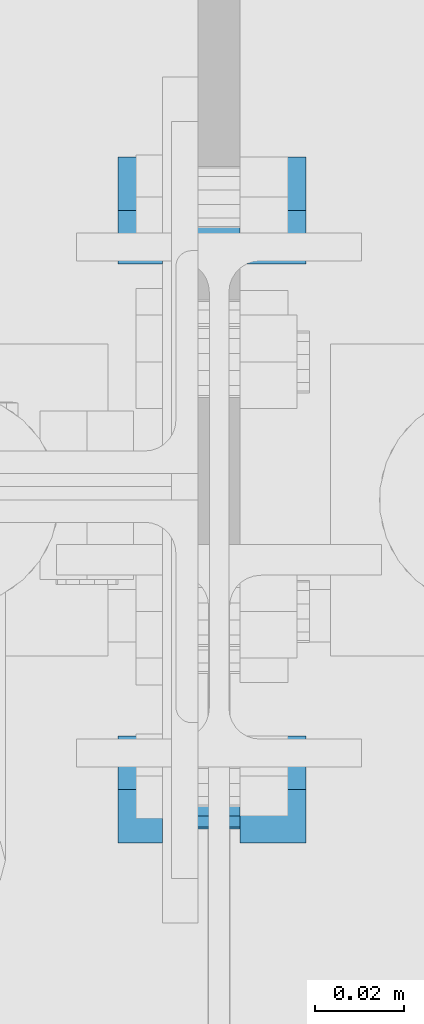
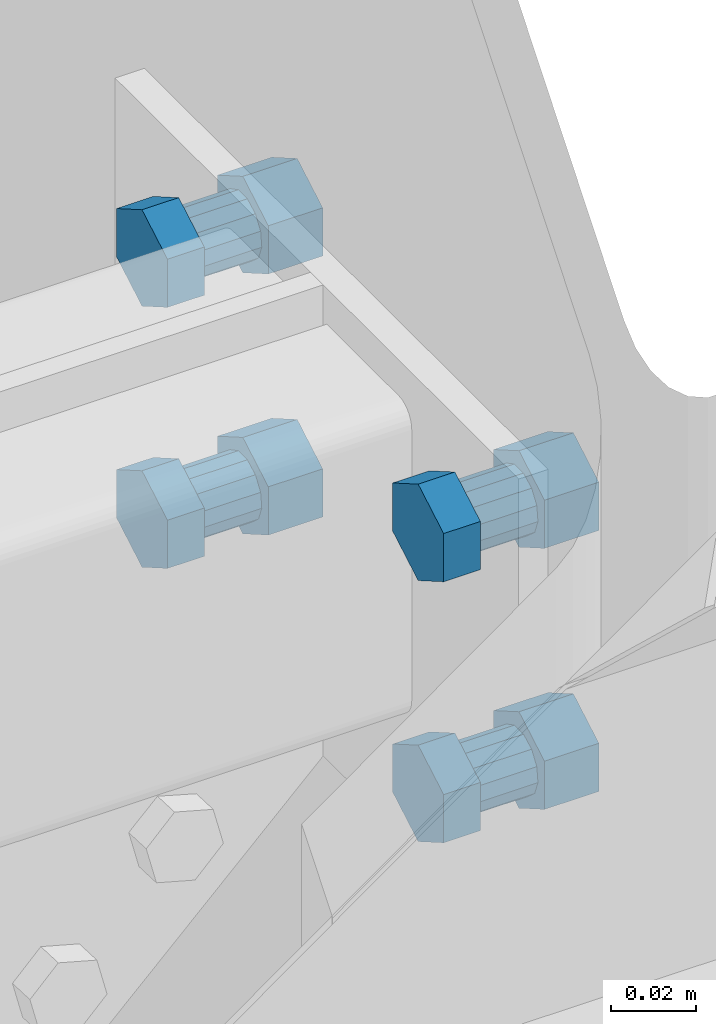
# One storey, part 6 of 18: 1 mechanical fastener.
"""IFC2X3 building model written with IfcOpenShell, lengths in millimetres."""

import ifcopenshell
import ifcopenshell.guid

model = None  # the IFC model being written
_history = None  # IfcOwnerHistory: only IFC2X3 demands one
_inside = {}  # id of a spatial element -> (the spatial element, [elements in it])
_under = {}  # id of a project, library or spatial element -> (it, [spatial elements below it])
_declared = {}  # id of a project -> (the project, [libraries it declares])
_typed = {}  # id of a type object -> (the type object, [elements of that type])
_made_of = {}  # id of a material, layer set ... -> (it, [elements and type objects made of it])


def new_model(schema):
    """Start an empty IFC model of exactly this schema.

    Asked for "IFC4X3", IfcOpenShell would pick the latest addendum, in which some entities
    have other attributes; the version numbers below select the first issue.
    IFC2X3 requires an IfcOwnerHistory on every rooted entity: one is made here for all.
    """
    global model, _history
    if schema == "IFC4X3":
        model = ifcopenshell.file(schema_version=(4, 3, 0, 0))
    else:
        model = ifcopenshell.file(schema=schema)
    _inside.clear()
    _under.clear()
    _declared.clear()
    _typed.clear()
    _made_of.clear()
    _history = None
    if model.schema == "IFC2X3":
        org = make("IfcOrganization", Name="unknown")
        user = make(
            "IfcPersonAndOrganization",
            ThePerson=make("IfcPerson", FamilyName="unknown"),
            TheOrganization=org,
        )
        app = make(
            "IfcApplication",
            ApplicationDeveloper=org,
            Version="unknown",
            ApplicationFullName="unknown",
            ApplicationIdentifier="unknown",
        )
        _history = make(
            "IfcOwnerHistory",
            OwningUser=user,
            OwningApplication=app,
            ChangeAction="ADDED",
            CreationDate=0,
        )
    return model


def make(cls, **values):
    """One entity of the class cls with the attributes given. An attribute that is None is left unset."""
    return model.create_entity(
        cls, **{name: value for name, value in values.items() if value is not None}
    )


def rooted(cls, **values):
    """An entity with a GlobalId (a new one), such as an element, a storey or a relation."""
    return make(cls, GlobalId=ifcopenshell.guid.new(), OwnerHistory=_history, **values)


def si_unit(unit_type, name, prefix=None):
    """IfcSIUnit, for example si_unit("LENGTHUNIT", "METRE", prefix="MILLI")."""
    return make("IfcSIUnit", UnitType=unit_type, Prefix=prefix, Name=name)


def assignment(units):
    """IfcUnitAssignment: the units of a project."""
    return None if units is None else make("IfcUnitAssignment", Units=units)


def point(xyz):
    """IfcCartesianPoint."""
    return None if xyz is None else make("IfcCartesianPoint", Coordinates=xyz)


def direction(xyz):
    """IfcDirection."""
    return None if xyz is None else make("IfcDirection", DirectionRatios=xyz)


def frame(location, z_axis=None, x_axis=None):
    """IfcAxis2Placement3D, a coordinate frame: its origin and axes. An axis left out is left unset."""
    return make(
        "IfcAxis2Placement3D",
        Location=point(location),
        Axis=direction(z_axis),
        RefDirection=direction(x_axis),
    )


def origin_with_axes():
    """The frame at (0, 0, 0) with the z axis (0, 0, 1) and the x axis (1, 0, 0) written out."""
    return frame((0.0, 0.0, 0.0), z_axis=(0.0, 0.0, 1.0), x_axis=(1.0, 0.0, 0.0))


def place(relative_to, where):
    """IfcLocalPlacement: puts the frame where relative to a parent placement (None: the world)."""
    return make(
        "IfcLocalPlacement", PlacementRelTo=relative_to, RelativePlacement=where
    )


def context(
    kind, dimensions, precision=None, world=None, true_north=None, identifier=None
):
    """IfcGeometricRepresentationContext, for example the 3D "Model" context."""
    return make(
        "IfcGeometricRepresentationContext",
        ContextIdentifier=identifier,
        ContextType=kind,
        CoordinateSpaceDimension=dimensions,
        Precision=precision,
        WorldCoordinateSystem=world,
        TrueNorth=true_north,
    )


def subcontext(parent, identifier, kind, view, scale=None):
    """IfcGeometricRepresentationSubContext, for example "Body" below "Model"."""
    return make(
        "IfcGeometricRepresentationSubContext",
        ContextIdentifier=identifier,
        ContextType=kind,
        ParentContext=parent,
        TargetScale=scale,
        TargetView=view,
    )


def project(units=None, contexts=None):
    """IfcProject with its units and contexts."""
    return rooted(
        "IfcProject",
        Name="project",
        RepresentationContexts=contexts,
        UnitsInContext=assignment(units),
    )


def spatial(cls, under=None, at=None, **own):
    """A site, building, storey or space (cls), placed at a placement, below another one or the project."""
    s = rooted(cls, ObjectPlacement=at, **own)
    if under is not None:
        _under.setdefault(under.id(), (under, []))[1].append(s)
    return s


def faces_of(points, faces, orient=None, outer=None):
    """IfcFace entities. A face is a list of loops; a loop is a list of indices into points, from 0.

    orient and outer hold one flag for each loop. By default every Orientation is true, the
    first loop of a face is its IfcFaceOuterBound and the others are IfcFaceBound.
    """
    made = []
    for i, loops in enumerate(faces):
        bounds = []
        for j, loop in enumerate(loops):
            is_outer = j == 0 if outer is None else outer[i][j]
            bounds.append(
                make(
                    "IfcFaceOuterBound" if is_outer else "IfcFaceBound",
                    Bound=make("IfcPolyLoop", Polygon=[points[k] for k in loop]),
                    Orientation=True if orient is None else orient[i][j],
                )
            )
        made.append(make("IfcFace", Bounds=bounds))
    return made


def faceted_brep(points, faces, orient=None, outer=None, voids=None):
    """IfcFacetedBrep: a solid bounded by flat faces; with voids (closed shells), ...WithVoids."""
    shared = [point(p) for p in points]
    hull = make("IfcClosedShell", CfsFaces=faces_of(shared, faces, orient, outer))
    if voids is None:
        return make("IfcFacetedBrep", Outer=hull)
    return make(
        "IfcFacetedBrepWithVoids",
        Outer=hull,
        Voids=[
            make(cls, CfsFaces=faces_of(shared, fs, o, b)) for cls, fs, o, b in voids
        ],
    )


def shape(context_of_items, identifier, shape_type, items):
    """IfcShapeRepresentation: the items that make up one representation, for example the "Body"."""
    return make(
        "IfcShapeRepresentation",
        ContextOfItems=context_of_items,
        RepresentationIdentifier=identifier,
        RepresentationType=shape_type,
        Items=items,
    )


def source(mapping_origin, context_of_items, identifier, shape_type, items):
    """IfcRepresentationMap: a shape defined once, which mapped items show again and again."""
    return make(
        "IfcRepresentationMap",
        MappingOrigin=mapping_origin,
        MappedRepresentation=shape(context_of_items, identifier, shape_type, items),
    )


def transform(
    local_origin,
    x_axis=None,
    y_axis=None,
    z_axis=None,
    scale=None,
    scale2=None,
    scale3=None,
    uniform=True,
):
    """IfcCartesianTransformationOperator3D, or its non-uniform kind. x_axis, y_axis, z_axis: its Axis1, 2, 3."""
    if uniform:
        return make(
            "IfcCartesianTransformationOperator3D",
            Axis1=direction(x_axis),
            Axis2=direction(y_axis),
            LocalOrigin=point(local_origin),
            Scale=scale,
            Axis3=direction(z_axis),
        )
    return make(
        "IfcCartesianTransformationOperator3DnonUniform",
        Axis1=direction(x_axis),
        Axis2=direction(y_axis),
        LocalOrigin=point(local_origin),
        Scale=scale,
        Axis3=direction(z_axis),
        Scale2=scale2,
        Scale3=scale3,
    )


def mapped(mapping_source, mapping_target):
    """IfcMappedItem: shows the shape of a source again, moved by a transform."""
    return make(
        "IfcMappedItem", MappingSource=mapping_source, MappingTarget=mapping_target
    )


def made_of(thing, what):
    """Note that an element or type object is made of a material, layer set ...; save() writes the relation."""
    if what is not None:
        _made_of.setdefault(what.id(), (what, []))[1].append(thing)
    return thing


def type_object(cls, material=None, **own):
    """A type object (cls), such as IfcWallType, which elements share."""
    return made_of(rooted(cls, **own), material)


def element(
    cls,
    number,
    at=None,
    inside=None,
    cuts=None,
    type_object=None,
    material=None,
    context=None,
    identifier="Body",
    shape_type=None,
    held_by="IfcProductDefinitionShape",
    body=None,
    shapes=None,
    **own,
):
    """One element of the class cls, such as IfcWall. Its Tag is "e" and its number.

    at: its placement. inside: the storey or other place that contains it. cuts: it is an
    opening in that element (IfcRelVoidsElement). A single representation is given by context,
    identifier, shape_type and body (its items); several are given by shapes. held_by: the class
    of the entity that holds the representations. save() writes the other relations.
    """
    e = rooted(cls, Tag="e%d" % number, ObjectPlacement=at, **own)
    if body is not None:
        shapes = [shape(context, identifier, shape_type, body)]
    if shapes is not None:
        e.Representation = make(held_by, Representations=shapes)
    if inside is not None:
        _inside.setdefault(inside.id(), (inside, []))[1].append(e)
    if cuts is not None:
        rooted(
            "IfcRelVoidsElement", RelatingBuildingElement=cuts, RelatedOpeningElement=e
        )
    if type_object is not None:
        _typed.setdefault(type_object.id(), (type_object, []))[1].append(e)
    return made_of(e, material)


def aggregate(whole, parts):
    """IfcRelAggregates: a whole, such as a stair, and the parts it consists of."""
    return rooted("IfcRelAggregates", RelatingObject=whole, RelatedObjects=parts)


def save(model, path):
    """Write the relations noted so far, then the file.

    IfcRelAggregates (storeys below a building ...), IfcRelContainedInSpatialStructure (elements
    in a storey), IfcRelDefinesByType, IfcRelAssociatesMaterial and IfcRelDeclares: one each for
    every whole, place, type object, material and project.
    """
    for whole, parts in _under.values():
        aggregate(whole, parts)
    for where, things in _inside.values():
        rooted(
            "IfcRelContainedInSpatialStructure",
            RelatedElements=things,
            RelatingStructure=where,
        )
    for kind, things in _typed.values():
        rooted("IfcRelDefinesByType", RelatedObjects=things, RelatingType=kind)
    for what, things in _made_of.values():
        rooted("IfcRelAssociatesMaterial", RelatedObjects=things, RelatingMaterial=what)
    for by, libraries in _declared.values():
        rooted("IfcRelDeclares", RelatingContext=by, RelatedDefinitions=libraries)
    model.write(path)


model = new_model("IFC2X3")

# Units and contexts
model_context = context("Model", 3, precision=1e-05, world=origin_with_axes())
body_context = subcontext(model_context, "Body", "Model", "MODEL_VIEW")
ifc_project = project(units=[si_unit("LENGTHUNIT", "METRE", prefix="MILLI"), si_unit("AREAUNIT", "SQUARE_METRE"), si_unit("VOLUMEUNIT", "CUBIC_METRE"), si_unit("MASSUNIT", "GRAM", prefix="KILO"), si_unit("TIMEUNIT", "SECOND"), si_unit("PLANEANGLEUNIT", "RADIAN"), si_unit("SOLIDANGLEUNIT", "STERADIAN"), si_unit("THERMODYNAMICTEMPERATUREUNIT", "DEGREE_CELSIUS"), si_unit("LUMINOUSINTENSITYUNIT", "LUMEN")], contexts=[model_context])

# Site, building, storey
site_placement = place(None, origin_with_axes())
site = spatial("IfcSite", under=ifc_project, at=site_placement, Name="Undefined", CompositionType="ELEMENT")
building_placement = place(site_placement, origin_with_axes())
building = spatial("IfcBuilding", under=site, at=building_placement, Name="Undefined", CompositionType="ELEMENT")
storey_placement = place(building_placement, origin_with_axes())
storey = spatial("IfcBuildingStorey", under=building, at=storey_placement, Name="Undefined", CompositionType="ELEMENT", Elevation=0.0)

# Mechanical fastener
mechanical_fastener_type = type_object("IfcMechanicalFastenerType", Name="Bolt assembly")
shared_shape_1 = source(origin_with_axes(), body_context, "Body", "Brep", [
    faceted_brep([(13.85640646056, -22.7000000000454, 0.0), (6.92820323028, -22.7000000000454, 12.0000000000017), (-6.92820323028, -22.7000000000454, 12.0000000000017), (-13.85640646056, -22.7000000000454, 0.0), (-6.92820323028, -22.7000000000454, -12.0000000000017), (6.92820323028, -22.7000000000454, -12.0000000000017), (6.92820323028, -12.7000000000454, -12.0000000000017), (-6.92820323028, -12.7000000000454, -12.0000000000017), (-13.85640646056, -12.7000000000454, 0.0), (-6.92820323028, -12.7000000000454, 12.0000000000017), (6.92820323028, -12.7000000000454, 12.0000000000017), (13.85640646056, -12.7000000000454, 0.0), (8.0, -12.7000000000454, 0.0), (7.08364820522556, -12.7000000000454, 3.71778537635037), (4.54451797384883, -12.7000000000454, 6.58387092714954), (0.964293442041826, -12.7000000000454, 7.94167099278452), (-2.83683909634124, -12.7000000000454, 7.48012994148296), (-5.98808598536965, -12.7000000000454, 5.30498126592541), (-7.76753453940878, -12.7000000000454, 1.91452531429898), (-7.76753453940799, -12.7000000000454, -1.91452531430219), (-5.98808598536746, -12.7000000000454, -5.30498126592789), (-2.83683909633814, -12.7000000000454, -7.48012994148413), (0.964293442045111, -12.7000000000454, -7.94167099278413), (4.54451797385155, -12.7000000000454, -6.58387092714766), (4.54451797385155, 12.2999999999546, -6.58387092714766), (0.964293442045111, 12.2999999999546, -7.94167099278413), (-2.83683909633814, 12.2999999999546, -7.48012994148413), (-5.98808598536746, 12.2999999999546, -5.30498126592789), (-7.76753453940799, 12.2999999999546, -1.91452531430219), (-7.76753453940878, 12.2999999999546, 1.91452531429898), (-5.98808598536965, 12.2999999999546, 5.30498126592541), (-2.83683909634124, 12.2999999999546, 7.48012994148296), (0.964293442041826, 12.2999999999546, 7.94167099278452), (4.54451797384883, 12.2999999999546, 6.58387092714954), (7.08364820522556, 12.2999999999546, 3.71778537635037), (8.0, 12.2999999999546, 0.0), (13.85640646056, 4.7000095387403, 0.0), (6.92820323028, 4.7000095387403, 12.0000000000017), (-6.92820323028, 4.7000095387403, 12.0000000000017), (-13.85640646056, 4.7000095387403, 0.0), (-6.92820323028, 4.7000095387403, -12.0000000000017), (6.92820323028, 4.7000095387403, -12.0000000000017), (6.92820323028, 19.5000097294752, -12.0000000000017), (-6.92820323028, 19.5000097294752, -12.0000000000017), (-13.85640646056, 19.5000097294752, 0.0), (-6.92820323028, 19.5000097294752, 12.0000000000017), (6.92820323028, 19.5000097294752, 12.0000000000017), (13.85640646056, 19.5000097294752, 0.0)], [[[0, 1, 2, 3, 4, 5]], [[6, 7, 8, 9, 10, 11]], [[0, 11, 10, 1]], [[1, 10, 9, 2]], [[2, 9, 8, 3]], [[3, 8, 7, 4]], [[4, 7, 6, 5]], [[5, 6, 11, 0]], [[12, 13, 14, 15, 16, 17, 18, 19, 20, 21, 22, 23]], [[24, 25, 26, 27, 28, 29, 30, 31, 32, 33, 34, 35]], [[12, 35, 34, 13]], [[13, 34, 33, 14]], [[14, 33, 32, 15]], [[15, 32, 31, 16]], [[16, 31, 30, 17]], [[17, 30, 29, 18]], [[18, 29, 28, 19]], [[19, 28, 27, 20]], [[20, 27, 26, 21]], [[21, 26, 25, 22]], [[22, 25, 24, 23]], [[23, 24, 35, 12]], [[36, 37, 38, 39, 40, 41]], [[42, 43, 44, 45, 46, 47]], [[36, 47, 46, 37]], [[37, 46, 45, 38]], [[38, 45, 44, 39]], [[39, 44, 43, 40]], [[40, 43, 42, 41]], [[41, 42, 47, 36]]]),
    faceted_brep([(9.0, -4.7999900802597, 0.0), (7.96910423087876, -4.7999900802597, 4.18250854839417), (5.11258272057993, -4.7999900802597, 7.40685479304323), (1.08483012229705, -4.7999900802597, 8.93437986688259), (-3.19144398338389, -4.7999900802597, 8.41514618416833), (-6.73659673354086, -4.7999900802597, 5.96810392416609), (-8.73847635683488, -4.7999900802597, 2.15384097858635), (-8.73847635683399, -4.7999900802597, -2.15384097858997), (-6.73659673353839, -4.7999900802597, -5.96810392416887), (-3.19144398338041, -4.7999900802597, -8.41514618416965), (1.08483012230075, -4.7999900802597, -8.93437986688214), (5.112582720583, -4.7999900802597, -7.40685479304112), (5.112582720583, 4.7000095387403, -7.40685479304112), (1.08483012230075, 4.7000095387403, -8.93437986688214), (-3.19144398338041, 4.7000095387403, -8.41514618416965), (-6.73659673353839, 4.7000095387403, -5.96810392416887), (-8.73847635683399, 4.7000095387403, -2.15384097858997), (-8.73847635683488, 4.7000095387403, 2.15384097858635), (-6.73659673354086, 4.7000095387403, 5.96810392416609), (-3.19144398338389, 4.7000095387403, 8.41514618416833), (1.08483012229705, 4.7000095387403, 8.93437986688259), (5.11258272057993, 4.7000095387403, 7.40685479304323), (7.96910423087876, 4.7000095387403, 4.18250854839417), (9.0, 4.7000095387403, 0.0), (9.0, -12.6000000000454, 0.0), (7.96910423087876, -12.6000000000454, 4.18250854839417), (5.11258272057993, -12.6000000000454, 7.40685479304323), (1.08483012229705, -12.6000000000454, 8.93437986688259), (-3.19144398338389, -12.6000000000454, 8.41514618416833), (-6.73659673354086, -12.6000000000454, 5.96810392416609), (-8.73847635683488, -12.6000000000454, 2.15384097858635), (-8.73847635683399, -12.6000000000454, -2.15384097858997), (-6.73659673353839, -12.6000000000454, -5.96810392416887), (-3.19144398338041, -12.6000000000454, -8.41514618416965), (1.08483012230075, -12.6000000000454, -8.93437986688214), (5.112582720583, -12.6000000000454, -7.40685479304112), (5.112582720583, -4.60000000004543, -7.40685479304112), (1.08483012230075, -4.60000000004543, -8.93437986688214), (-3.19144398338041, -4.60000000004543, -8.41514618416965), (-6.73659673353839, -4.60000000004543, -5.96810392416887), (-8.73847635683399, -4.60000000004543, -2.15384097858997), (-8.73847635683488, -4.60000000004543, 2.15384097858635), (-6.73659673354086, -4.60000000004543, 5.96810392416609), (-3.19144398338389, -4.60000000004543, 8.41514618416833), (1.08483012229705, -4.60000000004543, 8.93437986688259), (5.11258272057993, -4.60000000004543, 7.40685479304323), (7.96910423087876, -4.60000000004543, 4.18250854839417), (9.0, -4.60000000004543, 0.0)], [[[0, 1, 2, 3, 4, 5, 6, 7, 8, 9, 10, 11]], [[12, 13, 14, 15, 16, 17, 18, 19, 20, 21, 22, 23]], [[0, 23, 22, 1]], [[1, 22, 21, 2]], [[2, 21, 20, 3]], [[3, 20, 19, 4]], [[4, 19, 18, 5]], [[5, 18, 17, 6]], [[6, 17, 16, 7]], [[7, 16, 15, 8]], [[8, 15, 14, 9]], [[9, 14, 13, 10]], [[10, 13, 12, 11]], [[11, 12, 23, 0]], [[24, 25, 26, 27, 28, 29, 30, 31, 32, 33, 34, 35]], [[36, 37, 38, 39, 40, 41, 42, 43, 44, 45, 46, 47]], [[24, 47, 46, 25]], [[25, 46, 45, 26]], [[26, 45, 44, 27]], [[27, 44, 43, 28]], [[28, 43, 42, 29]], [[29, 42, 41, 30]], [[30, 41, 40, 31]], [[31, 40, 39, 32]], [[32, 39, 38, 33]], [[33, 38, 37, 34]], [[34, 37, 36, 35]], [[35, 36, 47, 24]]]),
])
shared_shape_2 = source(origin_with_axes(), body_context, "Body", "Brep", [
    faceted_brep([(13.85640646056, -22.7000000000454, 0.0), (6.92820323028, -22.7000000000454, 12.0000000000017), (-6.92820323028, -22.7000000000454, 12.0000000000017), (-13.85640646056, -22.7000000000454, 0.0), (-6.92820323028, -22.7000000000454, -12.0000000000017), (6.92820323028, -22.7000000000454, -12.0000000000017), (6.92820323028, -12.7000000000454, -12.0000000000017), (-6.92820323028, -12.7000000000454, -12.0000000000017), (-13.85640646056, -12.7000000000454, 0.0), (-6.92820323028, -12.7000000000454, 12.0000000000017), (6.92820323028, -12.7000000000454, 12.0000000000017), (13.85640646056, -12.7000000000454, 0.0), (8.0, -12.7000000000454, 0.0), (7.08364820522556, -12.7000000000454, 3.71778537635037), (4.54451797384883, -12.7000000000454, 6.58387092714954), (0.964293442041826, -12.7000000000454, 7.94167099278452), (-2.83683909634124, -12.7000000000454, 7.48012994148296), (-5.98808598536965, -12.7000000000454, 5.30498126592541), (-7.76753453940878, -12.7000000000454, 1.91452531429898), (-7.76753453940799, -12.7000000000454, -1.91452531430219), (-5.98808598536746, -12.7000000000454, -5.30498126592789), (-2.83683909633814, -12.7000000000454, -7.48012994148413), (0.964293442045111, -12.7000000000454, -7.94167099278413), (4.54451797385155, -12.7000000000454, -6.58387092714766), (4.54451797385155, 12.2999999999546, -6.58387092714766), (0.964293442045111, 12.2999999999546, -7.94167099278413), (-2.83683909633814, 12.2999999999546, -7.48012994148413), (-5.98808598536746, 12.2999999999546, -5.30498126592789), (-7.76753453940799, 12.2999999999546, -1.91452531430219), (-7.76753453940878, 12.2999999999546, 1.91452531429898), (-5.98808598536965, 12.2999999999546, 5.30498126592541), (-2.83683909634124, 12.2999999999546, 7.48012994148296), (0.964293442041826, 12.2999999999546, 7.94167099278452), (4.54451797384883, 12.2999999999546, 6.58387092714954), (7.08364820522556, 12.2999999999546, 3.71778537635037), (8.0, 12.2999999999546, 0.0), (13.85640646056, 4.7000095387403, 0.0), (6.92820323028, 4.7000095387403, 12.0000000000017), (-6.92820323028, 4.7000095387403, 12.0000000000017), (-13.85640646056, 4.7000095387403, 0.0), (-6.92820323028, 4.7000095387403, -12.0000000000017), (6.92820323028, 4.7000095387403, -12.0000000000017), (6.92820323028, 19.5000097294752, -12.0000000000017), (-6.92820323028, 19.5000097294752, -12.0000000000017), (-13.85640646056, 19.5000097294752, 0.0), (-6.92820323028, 19.5000097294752, 12.0000000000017), (6.92820323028, 19.5000097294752, 12.0000000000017), (13.85640646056, 19.5000097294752, 0.0)], [[[0, 1, 2, 3, 4, 5]], [[6, 7, 8, 9, 10, 11]], [[0, 11, 10, 1]], [[1, 10, 9, 2]], [[2, 9, 8, 3]], [[3, 8, 7, 4]], [[4, 7, 6, 5]], [[5, 6, 11, 0]], [[12, 13, 14, 15, 16, 17, 18, 19, 20, 21, 22, 23]], [[24, 25, 26, 27, 28, 29, 30, 31, 32, 33, 34, 35]], [[12, 35, 34, 13]], [[13, 34, 33, 14]], [[14, 33, 32, 15]], [[15, 32, 31, 16]], [[16, 31, 30, 17]], [[17, 30, 29, 18]], [[18, 29, 28, 19]], [[19, 28, 27, 20]], [[20, 27, 26, 21]], [[21, 26, 25, 22]], [[22, 25, 24, 23]], [[23, 24, 35, 12]], [[36, 37, 38, 39, 40, 41]], [[42, 43, 44, 45, 46, 47]], [[36, 47, 46, 37]], [[37, 46, 45, 38]], [[38, 45, 44, 39]], [[39, 44, 43, 40]], [[40, 43, 42, 41]], [[41, 42, 47, 36]]]),
    faceted_brep([(9.0, -4.7999900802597, 0.0), (7.96910423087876, -4.7999900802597, 4.18250854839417), (5.11258272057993, -4.7999900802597, 7.40685479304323), (1.08483012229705, -4.7999900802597, 8.93437986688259), (-3.19144398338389, -4.7999900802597, 8.41514618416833), (-6.73659673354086, -4.7999900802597, 5.96810392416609), (-8.73847635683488, -4.7999900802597, 2.15384097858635), (-8.73847635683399, -4.7999900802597, -2.15384097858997), (-6.73659673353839, -4.7999900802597, -5.96810392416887), (-3.19144398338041, -4.7999900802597, -8.41514618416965), (1.08483012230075, -4.7999900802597, -8.93437986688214), (5.112582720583, -4.7999900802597, -7.40685479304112), (5.112582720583, 4.7000095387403, -7.40685479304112), (1.08483012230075, 4.7000095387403, -8.93437986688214), (-3.19144398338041, 4.7000095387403, -8.41514618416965), (-6.73659673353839, 4.7000095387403, -5.96810392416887), (-8.73847635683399, 4.7000095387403, -2.15384097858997), (-8.73847635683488, 4.7000095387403, 2.15384097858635), (-6.73659673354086, 4.7000095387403, 5.96810392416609), (-3.19144398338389, 4.7000095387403, 8.41514618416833), (1.08483012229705, 4.7000095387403, 8.93437986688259), (5.11258272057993, 4.7000095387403, 7.40685479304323), (7.96910423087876, 4.7000095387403, 4.18250854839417), (9.0, 4.7000095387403, 0.0), (9.0, -12.6000000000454, 0.0), (7.96910423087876, -12.6000000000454, 4.18250854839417), (5.11258272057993, -12.6000000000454, 7.40685479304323), (1.08483012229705, -12.6000000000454, 8.93437986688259), (-3.19144398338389, -12.6000000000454, 8.41514618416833), (-6.73659673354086, -12.6000000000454, 5.96810392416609), (-8.73847635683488, -12.6000000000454, 2.15384097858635), (-8.73847635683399, -12.6000000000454, -2.15384097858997), (-6.73659673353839, -12.6000000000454, -5.96810392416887), (-3.19144398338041, -12.6000000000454, -8.41514618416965), (1.08483012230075, -12.6000000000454, -8.93437986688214), (5.112582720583, -12.6000000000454, -7.40685479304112), (5.112582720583, -4.60000000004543, -7.40685479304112), (1.08483012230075, -4.60000000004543, -8.93437986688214), (-3.19144398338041, -4.60000000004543, -8.41514618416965), (-6.73659673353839, -4.60000000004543, -5.96810392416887), (-8.73847635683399, -4.60000000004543, -2.15384097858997), (-8.73847635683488, -4.60000000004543, 2.15384097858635), (-6.73659673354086, -4.60000000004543, 5.96810392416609), (-3.19144398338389, -4.60000000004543, 8.41514618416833), (1.08483012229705, -4.60000000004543, 8.93437986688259), (5.11258272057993, -4.60000000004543, 7.40685479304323), (7.96910423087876, -4.60000000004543, 4.18250854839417), (9.0, -4.60000000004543, 0.0)], [[[0, 1, 2, 3, 4, 5, 6, 7, 8, 9, 10, 11]], [[12, 13, 14, 15, 16, 17, 18, 19, 20, 21, 22, 23]], [[0, 23, 22, 1]], [[1, 22, 21, 2]], [[2, 21, 20, 3]], [[3, 20, 19, 4]], [[4, 19, 18, 5]], [[5, 18, 17, 6]], [[6, 17, 16, 7]], [[7, 16, 15, 8]], [[8, 15, 14, 9]], [[9, 14, 13, 10]], [[10, 13, 12, 11]], [[11, 12, 23, 0]], [[24, 25, 26, 27, 28, 29, 30, 31, 32, 33, 34, 35]], [[36, 37, 38, 39, 40, 41, 42, 43, 44, 45, 46, 47]], [[24, 47, 46, 25]], [[25, 46, 45, 26]], [[26, 45, 44, 27]], [[27, 44, 43, 28]], [[28, 43, 42, 29]], [[29, 42, 41, 30]], [[30, 41, 40, 31]], [[31, 40, 39, 32]], [[32, 39, 38, 33]], [[33, 38, 37, 34]], [[34, 37, 36, 35]], [[35, 36, 47, 24]]]),
])
shared_shape_3 = source(origin_with_axes(), body_context, "Body", "Brep", [
    faceted_brep([(13.85640646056, -22.7000000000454, 0.0), (6.92820323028, -22.7000000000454, 12.0000000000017), (-6.92820323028, -22.7000000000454, 12.0000000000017), (-13.85640646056, -22.7000000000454, 0.0), (-6.92820323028, -22.7000000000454, -12.0000000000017), (6.92820323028, -22.7000000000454, -12.0000000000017), (6.92820323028, -12.7000000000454, -12.0000000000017), (-6.92820323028, -12.7000000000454, -12.0000000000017), (-13.85640646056, -12.7000000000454, 0.0), (-6.92820323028, -12.7000000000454, 12.0000000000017), (6.92820323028, -12.7000000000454, 12.0000000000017), (13.85640646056, -12.7000000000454, 0.0), (8.0, -12.7000000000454, 0.0), (7.08364820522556, -12.7000000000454, 3.71778537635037), (4.54451797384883, -12.7000000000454, 6.58387092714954), (0.964293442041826, -12.7000000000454, 7.94167099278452), (-2.83683909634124, -12.7000000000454, 7.48012994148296), (-5.98808598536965, -12.7000000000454, 5.30498126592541), (-7.76753453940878, -12.7000000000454, 1.91452531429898), (-7.76753453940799, -12.7000000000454, -1.91452531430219), (-5.98808598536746, -12.7000000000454, -5.30498126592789), (-2.83683909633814, -12.7000000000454, -7.48012994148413), (0.964293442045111, -12.7000000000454, -7.94167099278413), (4.54451797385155, -12.7000000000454, -6.58387092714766), (4.54451797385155, 12.2999999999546, -6.58387092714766), (0.964293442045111, 12.2999999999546, -7.94167099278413), (-2.83683909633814, 12.2999999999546, -7.48012994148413), (-5.98808598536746, 12.2999999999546, -5.30498126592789), (-7.76753453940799, 12.2999999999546, -1.91452531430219), (-7.76753453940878, 12.2999999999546, 1.91452531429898), (-5.98808598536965, 12.2999999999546, 5.30498126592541), (-2.83683909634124, 12.2999999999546, 7.48012994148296), (0.964293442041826, 12.2999999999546, 7.94167099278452), (4.54451797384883, 12.2999999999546, 6.58387092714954), (7.08364820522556, 12.2999999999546, 3.71778537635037), (8.0, 12.2999999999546, 0.0), (13.85640646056, 4.7000095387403, 0.0), (6.92820323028, 4.7000095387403, 12.0000000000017), (-6.92820323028, 4.7000095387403, 12.0000000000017), (-13.85640646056, 4.7000095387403, 0.0), (-6.92820323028, 4.7000095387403, -12.0000000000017), (6.92820323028, 4.7000095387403, -12.0000000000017), (6.92820323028, 19.5000097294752, -12.0000000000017), (-6.92820323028, 19.5000097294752, -12.0000000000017), (-13.85640646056, 19.5000097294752, 0.0), (-6.92820323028, 19.5000097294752, 12.0000000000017), (6.92820323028, 19.5000097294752, 12.0000000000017), (13.85640646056, 19.5000097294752, 0.0)], [[[0, 1, 2, 3, 4, 5]], [[6, 7, 8, 9, 10, 11]], [[0, 11, 10, 1]], [[1, 10, 9, 2]], [[2, 9, 8, 3]], [[3, 8, 7, 4]], [[4, 7, 6, 5]], [[5, 6, 11, 0]], [[12, 13, 14, 15, 16, 17, 18, 19, 20, 21, 22, 23]], [[24, 25, 26, 27, 28, 29, 30, 31, 32, 33, 34, 35]], [[12, 35, 34, 13]], [[13, 34, 33, 14]], [[14, 33, 32, 15]], [[15, 32, 31, 16]], [[16, 31, 30, 17]], [[17, 30, 29, 18]], [[18, 29, 28, 19]], [[19, 28, 27, 20]], [[20, 27, 26, 21]], [[21, 26, 25, 22]], [[22, 25, 24, 23]], [[23, 24, 35, 12]], [[36, 37, 38, 39, 40, 41]], [[42, 43, 44, 45, 46, 47]], [[36, 47, 46, 37]], [[37, 46, 45, 38]], [[38, 45, 44, 39]], [[39, 44, 43, 40]], [[40, 43, 42, 41]], [[41, 42, 47, 36]]]),
    faceted_brep([(9.0, -4.7999900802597, 0.0), (7.96910423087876, -4.7999900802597, 4.18250854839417), (5.11258272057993, -4.7999900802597, 7.40685479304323), (1.08483012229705, -4.7999900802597, 8.93437986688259), (-3.19144398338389, -4.7999900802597, 8.41514618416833), (-6.73659673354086, -4.7999900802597, 5.96810392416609), (-8.73847635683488, -4.7999900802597, 2.15384097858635), (-8.73847635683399, -4.7999900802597, -2.15384097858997), (-6.73659673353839, -4.7999900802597, -5.96810392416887), (-3.19144398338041, -4.7999900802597, -8.41514618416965), (1.08483012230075, -4.7999900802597, -8.93437986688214), (5.112582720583, -4.7999900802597, -7.40685479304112), (5.112582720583, 4.7000095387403, -7.40685479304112), (1.08483012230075, 4.7000095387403, -8.93437986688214), (-3.19144398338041, 4.7000095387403, -8.41514618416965), (-6.73659673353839, 4.7000095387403, -5.96810392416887), (-8.73847635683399, 4.7000095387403, -2.15384097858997), (-8.73847635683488, 4.7000095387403, 2.15384097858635), (-6.73659673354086, 4.7000095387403, 5.96810392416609), (-3.19144398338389, 4.7000095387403, 8.41514618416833), (1.08483012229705, 4.7000095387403, 8.93437986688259), (5.11258272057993, 4.7000095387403, 7.40685479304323), (7.96910423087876, 4.7000095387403, 4.18250854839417), (9.0, 4.7000095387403, 0.0), (9.0, -12.6000000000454, 0.0), (7.96910423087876, -12.6000000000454, 4.18250854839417), (5.11258272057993, -12.6000000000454, 7.40685479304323), (1.08483012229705, -12.6000000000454, 8.93437986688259), (-3.19144398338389, -12.6000000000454, 8.41514618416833), (-6.73659673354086, -12.6000000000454, 5.96810392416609), (-8.73847635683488, -12.6000000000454, 2.15384097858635), (-8.73847635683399, -12.6000000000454, -2.15384097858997), (-6.73659673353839, -12.6000000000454, -5.96810392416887), (-3.19144398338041, -12.6000000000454, -8.41514618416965), (1.08483012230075, -12.6000000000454, -8.93437986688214), (5.112582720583, -12.6000000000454, -7.40685479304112), (5.112582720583, -4.60000000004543, -7.40685479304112), (1.08483012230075, -4.60000000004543, -8.93437986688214), (-3.19144398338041, -4.60000000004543, -8.41514618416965), (-6.73659673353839, -4.60000000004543, -5.96810392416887), (-8.73847635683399, -4.60000000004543, -2.15384097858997), (-8.73847635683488, -4.60000000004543, 2.15384097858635), (-6.73659673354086, -4.60000000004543, 5.96810392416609), (-3.19144398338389, -4.60000000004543, 8.41514618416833), (1.08483012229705, -4.60000000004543, 8.93437986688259), (5.11258272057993, -4.60000000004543, 7.40685479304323), (7.96910423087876, -4.60000000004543, 4.18250854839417), (9.0, -4.60000000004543, 0.0)], [[[0, 1, 2, 3, 4, 5, 6, 7, 8, 9, 10, 11]], [[12, 13, 14, 15, 16, 17, 18, 19, 20, 21, 22, 23]], [[0, 23, 22, 1]], [[1, 22, 21, 2]], [[2, 21, 20, 3]], [[3, 20, 19, 4]], [[4, 19, 18, 5]], [[5, 18, 17, 6]], [[6, 17, 16, 7]], [[7, 16, 15, 8]], [[8, 15, 14, 9]], [[9, 14, 13, 10]], [[10, 13, 12, 11]], [[11, 12, 23, 0]], [[24, 25, 26, 27, 28, 29, 30, 31, 32, 33, 34, 35]], [[36, 37, 38, 39, 40, 41, 42, 43, 44, 45, 46, 47]], [[24, 47, 46, 25]], [[25, 46, 45, 26]], [[26, 45, 44, 27]], [[27, 44, 43, 28]], [[28, 43, 42, 29]], [[29, 42, 41, 30]], [[30, 41, 40, 31]], [[31, 40, 39, 32]], [[32, 39, 38, 33]], [[33, 38, 37, 34]], [[34, 37, 36, 35]], [[35, 36, 47, 24]]]),
])
shared_shape_4 = source(origin_with_axes(), body_context, "Body", "Brep", [
    faceted_brep([(13.85640646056, -22.7000000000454, 0.0), (6.92820323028, -22.7000000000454, 12.0000000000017), (-6.92820323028, -22.7000000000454, 12.0000000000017), (-13.85640646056, -22.7000000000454, 0.0), (-6.92820323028, -22.7000000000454, -12.0000000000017), (6.92820323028, -22.7000000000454, -12.0000000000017), (6.92820323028, -12.7000000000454, -12.0000000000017), (-6.92820323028, -12.7000000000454, -12.0000000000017), (-13.85640646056, -12.7000000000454, 0.0), (-6.92820323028, -12.7000000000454, 12.0000000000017), (6.92820323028, -12.7000000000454, 12.0000000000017), (13.85640646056, -12.7000000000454, 0.0), (8.0, -12.7000000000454, 0.0), (7.08364820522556, -12.7000000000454, 3.71778537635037), (4.54451797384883, -12.7000000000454, 6.58387092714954), (0.964293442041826, -12.7000000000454, 7.94167099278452), (-2.83683909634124, -12.7000000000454, 7.48012994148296), (-5.98808598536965, -12.7000000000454, 5.30498126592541), (-7.76753453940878, -12.7000000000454, 1.91452531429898), (-7.76753453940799, -12.7000000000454, -1.91452531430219), (-5.98808598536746, -12.7000000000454, -5.30498126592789), (-2.83683909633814, -12.7000000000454, -7.48012994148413), (0.964293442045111, -12.7000000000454, -7.94167099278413), (4.54451797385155, -12.7000000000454, -6.58387092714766), (4.54451797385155, 12.2999999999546, -6.58387092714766), (0.964293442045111, 12.2999999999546, -7.94167099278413), (-2.83683909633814, 12.2999999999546, -7.48012994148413), (-5.98808598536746, 12.2999999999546, -5.30498126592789), (-7.76753453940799, 12.2999999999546, -1.91452531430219), (-7.76753453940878, 12.2999999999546, 1.91452531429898), (-5.98808598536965, 12.2999999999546, 5.30498126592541), (-2.83683909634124, 12.2999999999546, 7.48012994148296), (0.964293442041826, 12.2999999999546, 7.94167099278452), (4.54451797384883, 12.2999999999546, 6.58387092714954), (7.08364820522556, 12.2999999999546, 3.71778537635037), (8.0, 12.2999999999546, 0.0), (13.85640646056, 4.7000095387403, 0.0), (6.92820323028, 4.7000095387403, 12.0000000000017), (-6.92820323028, 4.7000095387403, 12.0000000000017), (-13.85640646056, 4.7000095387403, 0.0), (-6.92820323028, 4.7000095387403, -12.0000000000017), (6.92820323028, 4.7000095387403, -12.0000000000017), (6.92820323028, 19.5000097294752, -12.0000000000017), (-6.92820323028, 19.5000097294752, -12.0000000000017), (-13.85640646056, 19.5000097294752, 0.0), (-6.92820323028, 19.5000097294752, 12.0000000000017), (6.92820323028, 19.5000097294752, 12.0000000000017), (13.85640646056, 19.5000097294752, 0.0)], [[[0, 1, 2, 3, 4, 5]], [[6, 7, 8, 9, 10, 11]], [[0, 11, 10, 1]], [[1, 10, 9, 2]], [[2, 9, 8, 3]], [[3, 8, 7, 4]], [[4, 7, 6, 5]], [[5, 6, 11, 0]], [[12, 13, 14, 15, 16, 17, 18, 19, 20, 21, 22, 23]], [[24, 25, 26, 27, 28, 29, 30, 31, 32, 33, 34, 35]], [[12, 35, 34, 13]], [[13, 34, 33, 14]], [[14, 33, 32, 15]], [[15, 32, 31, 16]], [[16, 31, 30, 17]], [[17, 30, 29, 18]], [[18, 29, 28, 19]], [[19, 28, 27, 20]], [[20, 27, 26, 21]], [[21, 26, 25, 22]], [[22, 25, 24, 23]], [[23, 24, 35, 12]], [[36, 37, 38, 39, 40, 41]], [[42, 43, 44, 45, 46, 47]], [[36, 47, 46, 37]], [[37, 46, 45, 38]], [[38, 45, 44, 39]], [[39, 44, 43, 40]], [[40, 43, 42, 41]], [[41, 42, 47, 36]]]),
    faceted_brep([(9.0, -4.7999900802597, 0.0), (7.96910423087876, -4.7999900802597, 4.18250854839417), (5.11258272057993, -4.7999900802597, 7.40685479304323), (1.08483012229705, -4.7999900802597, 8.93437986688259), (-3.19144398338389, -4.7999900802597, 8.41514618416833), (-6.73659673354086, -4.7999900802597, 5.96810392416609), (-8.73847635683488, -4.7999900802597, 2.15384097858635), (-8.73847635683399, -4.7999900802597, -2.15384097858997), (-6.73659673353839, -4.7999900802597, -5.96810392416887), (-3.19144398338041, -4.7999900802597, -8.41514618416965), (1.08483012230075, -4.7999900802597, -8.93437986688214), (5.112582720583, -4.7999900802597, -7.40685479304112), (5.112582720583, 4.7000095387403, -7.40685479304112), (1.08483012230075, 4.7000095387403, -8.93437986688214), (-3.19144398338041, 4.7000095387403, -8.41514618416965), (-6.73659673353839, 4.7000095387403, -5.96810392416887), (-8.73847635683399, 4.7000095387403, -2.15384097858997), (-8.73847635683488, 4.7000095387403, 2.15384097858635), (-6.73659673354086, 4.7000095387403, 5.96810392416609), (-3.19144398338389, 4.7000095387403, 8.41514618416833), (1.08483012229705, 4.7000095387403, 8.93437986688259), (5.11258272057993, 4.7000095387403, 7.40685479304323), (7.96910423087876, 4.7000095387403, 4.18250854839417), (9.0, 4.7000095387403, 0.0), (9.0, -12.6000000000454, 0.0), (7.96910423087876, -12.6000000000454, 4.18250854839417), (5.11258272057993, -12.6000000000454, 7.40685479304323), (1.08483012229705, -12.6000000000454, 8.93437986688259), (-3.19144398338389, -12.6000000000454, 8.41514618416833), (-6.73659673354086, -12.6000000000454, 5.96810392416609), (-8.73847635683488, -12.6000000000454, 2.15384097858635), (-8.73847635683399, -12.6000000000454, -2.15384097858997), (-6.73659673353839, -12.6000000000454, -5.96810392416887), (-3.19144398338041, -12.6000000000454, -8.41514618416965), (1.08483012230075, -12.6000000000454, -8.93437986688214), (5.112582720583, -12.6000000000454, -7.40685479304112), (5.112582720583, -4.60000000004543, -7.40685479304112), (1.08483012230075, -4.60000000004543, -8.93437986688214), (-3.19144398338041, -4.60000000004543, -8.41514618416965), (-6.73659673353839, -4.60000000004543, -5.96810392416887), (-8.73847635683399, -4.60000000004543, -2.15384097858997), (-8.73847635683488, -4.60000000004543, 2.15384097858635), (-6.73659673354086, -4.60000000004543, 5.96810392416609), (-3.19144398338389, -4.60000000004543, 8.41514618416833), (1.08483012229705, -4.60000000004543, 8.93437986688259), (5.11258272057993, -4.60000000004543, 7.40685479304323), (7.96910423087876, -4.60000000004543, 4.18250854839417), (9.0, -4.60000000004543, 0.0)], [[[0, 1, 2, 3, 4, 5, 6, 7, 8, 9, 10, 11]], [[12, 13, 14, 15, 16, 17, 18, 19, 20, 21, 22, 23]], [[0, 23, 22, 1]], [[1, 22, 21, 2]], [[2, 21, 20, 3]], [[3, 20, 19, 4]], [[4, 19, 18, 5]], [[5, 18, 17, 6]], [[6, 17, 16, 7]], [[7, 16, 15, 8]], [[8, 15, 14, 9]], [[9, 14, 13, 10]], [[10, 13, 12, 11]], [[11, 12, 23, 0]], [[24, 25, 26, 27, 28, 29, 30, 31, 32, 33, 34, 35]], [[36, 37, 38, 39, 40, 41, 42, 43, 44, 45, 46, 47]], [[24, 47, 46, 25]], [[25, 46, 45, 26]], [[26, 45, 44, 27]], [[27, 44, 43, 28]], [[28, 43, 42, 29]], [[29, 42, 41, 30]], [[30, 41, 40, 31]], [[31, 40, 39, 32]], [[32, 39, 38, 33]], [[33, 38, 37, 34]], [[34, 37, 36, 35]], [[35, 36, 47, 24]]]),
])
mechanical_fastener_placement = place(storey_placement, frame((-9.72872945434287e-06, -74.999999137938, 3438.99941189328), z_axis=(0.0, -1.0, -6.7762635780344e-21), x_axis=(2.350712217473e-13, -3.38692037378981e-13, -1.0)))
element("IfcMechanicalFastener", 1, at=mechanical_fastener_placement, inside=storey, type_object=mechanical_fastener_type, Name="Bolt assembly", NominalDiameter=16.0, NominalLength=40.0, context=body_context, shape_type="MappedRepresentation", body=[
    mapped(shared_shape_1, transform((0.0, 0.0, -65.0))),
    mapped(shared_shape_2, transform((75.0, 0.0, -65.0))),
    mapped(shared_shape_3, transform((0.0, 0.0, 65.0))),
    mapped(shared_shape_4, transform((75.0, 0.0, 65.0))),
])

save(model, "model.ifc")
